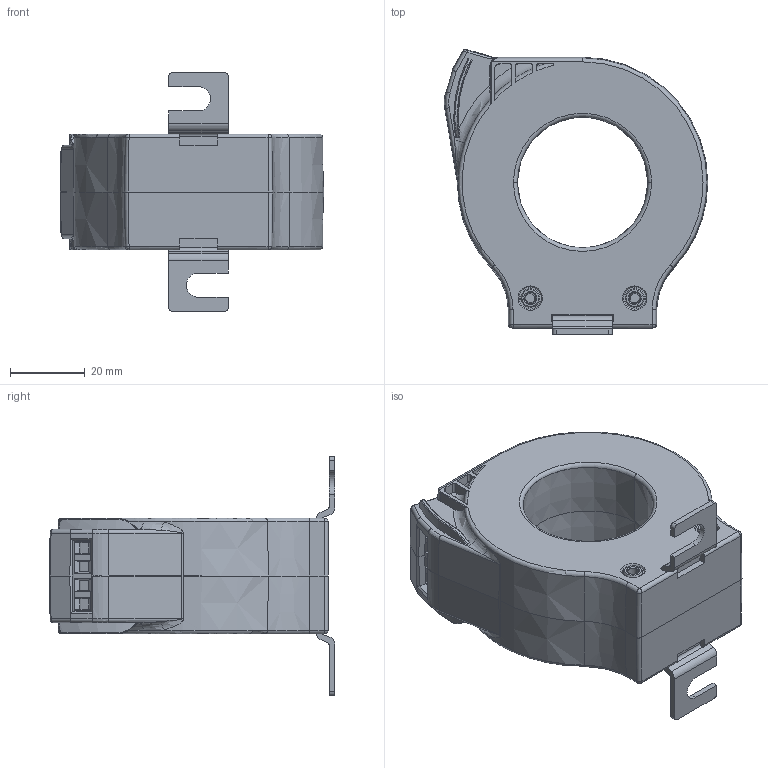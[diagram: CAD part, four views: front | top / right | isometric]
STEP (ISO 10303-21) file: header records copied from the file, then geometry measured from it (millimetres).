
FILE_DESCRIPTION((''),'2;1');
FILE_NAME('WG35_-4P_POLOS_SW0002','2024-09-23T09:22:55',('lesquembri'),(''),'CREO PARAMETRIC BY PTC INC, 2018260','CREO PARAMETRIC BY PTC INC, 2018260','');
FILE_SCHEMA(('AUTOMOTIVE_DESIGN { 1 0 10303 214 1 1 1 1 }'));
Length unit declared in the file: millimetre
Products named in the file (1): WG35_-4P_POLOS_SW0002
Bounding box: 70.59 x 76.52 x 64 mm (x, y, z)
Surface area: 21367.8 mm2 (no closed solid volume)
Topology: 0 solids, 12 shells, 368 faces, 1040 edges, 690 vertices
Faces by surface type: plane 180, cylinder 74, cone 48, torus 38, bspline 24, sphere 4
Entity records: 15582 total; most frequent: CARTESIAN_POINT 4675, ORIENTED_EDGE 1860, DIRECTION 1811, COLOUR_RGB 1578, EDGE_CURVE 1034, VERTEX_POINT 690, AXIS2_PLACEMENT_3D 627, VECTOR 557
